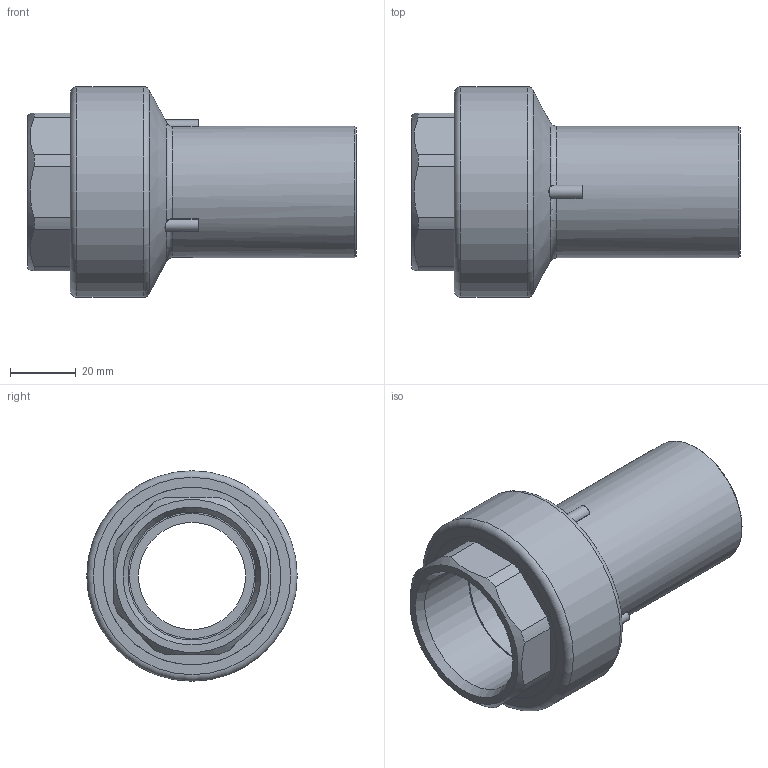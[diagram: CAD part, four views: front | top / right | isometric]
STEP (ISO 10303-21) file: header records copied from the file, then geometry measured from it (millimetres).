
FILE_DESCRIPTION(/* description */ ('Unknown'),/* implementation_level */ '2;1');
FILE_NAME(/* name */ 'RTOFP040C',/* time_stamp */ '2021-03-01T15:32:46+01:00',/* author */ ('Unknown'),/* organization */ ('Unknown'),/* preprocessor_version */ 'ST-DEVELOPER v16.7',/* originating_system */ 'Solid Edge',/* authorisation */ 'Unknown');
FILE_SCHEMA (('AUTOMOTIVE_DESIGN {1 0 10303 214 3 1 1}'));
Length unit declared in the file: millimetre
Products named in the file (3): RTOFP040C; Parte PE 040; IOF040C
Assembly tree (2 placements, depth 2):
  RTOFP040C
    Parte PE 040
    IOF040C
Bounding box: 100 x 64 x 64 mm (x, y, z)
Volume: 92185.2 mm3; surface area: 45537.8 mm2
Topology: 2 solids, 2 shells, 166 faces, 408 edges, 263 vertices
Faces by surface type: plane 96, cylinder 40, bspline 15, torus 11, cone 4
Full cylindrical faces by diameter (mm): 32.6 x1, 38 x3, 38.952 x1, 40 x1, 42 x2, 49 x4, 49.8 x2, 54 x8, 64 x1
Entity records: 5518 total; most frequent: CARTESIAN_POINT 1167, DIRECTION 808, ORIENTED_EDGE 740, EDGE_CURVE 370, AXIS2_PLACEMENT_3D 322, VERTEX_POINT 254, EDGE_LOOP 216, FACE_BOUND 216
